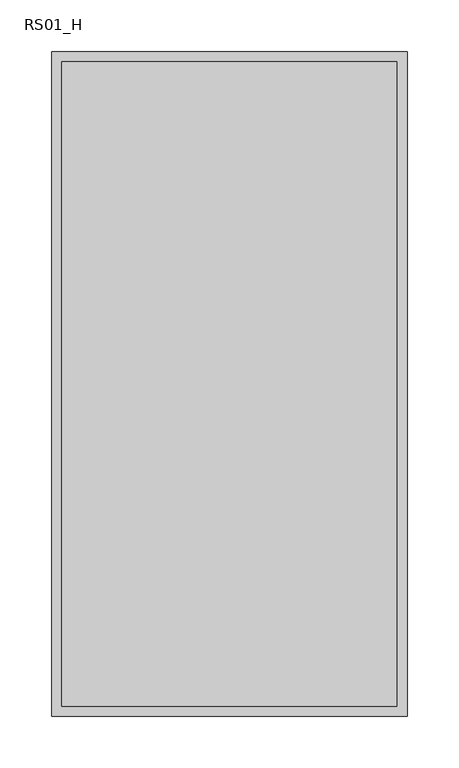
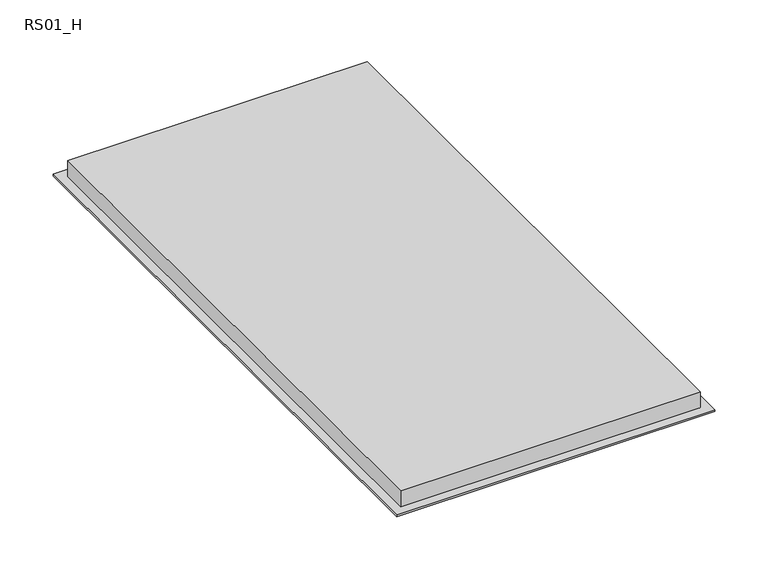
"""IFC4 building model written with IfcOpenShell, lengths in millimetres: air terminal geometry, ZYR_03.06.04.01 Reixa Sostre Sobrepressio : RS01_H."""

import ifcopenshell
import ifcopenshell.guid

model = None  # the IFC model being written
_history = None  # IfcOwnerHistory: only IFC2X3 demands one
_inside = {}  # id of a spatial element -> (the spatial element, [elements in it])
_under = {}  # id of a project, library or spatial element -> (it, [spatial elements below it])
_declared = {}  # id of a project -> (the project, [libraries it declares])
_typed = {}  # id of a type object -> (the type object, [elements of that type])
_made_of = {}  # id of a material, layer set ... -> (it, [elements and type objects made of it])


def new_model(schema):
    """Start an empty IFC model of exactly this schema.

    Asked for "IFC4X3", IfcOpenShell would pick the latest addendum, in which some entities
    have other attributes; the version numbers below select the first issue.
    IFC2X3 requires an IfcOwnerHistory on every rooted entity: one is made here for all.
    """
    global model, _history
    if schema == "IFC4X3":
        model = ifcopenshell.file(schema_version=(4, 3, 0, 0))
    else:
        model = ifcopenshell.file(schema=schema)
    _inside.clear()
    _under.clear()
    _declared.clear()
    _typed.clear()
    _made_of.clear()
    _history = None
    if model.schema == "IFC2X3":
        org = make("IfcOrganization", Name="unknown")
        user = make(
            "IfcPersonAndOrganization",
            ThePerson=make("IfcPerson", FamilyName="unknown"),
            TheOrganization=org,
        )
        app = make(
            "IfcApplication",
            ApplicationDeveloper=org,
            Version="unknown",
            ApplicationFullName="unknown",
            ApplicationIdentifier="unknown",
        )
        _history = make(
            "IfcOwnerHistory",
            OwningUser=user,
            OwningApplication=app,
            ChangeAction="ADDED",
            CreationDate=0,
        )
    return model


def make(cls, **values):
    """One entity of the class cls with the attributes given. An attribute that is None is left unset."""
    return model.create_entity(
        cls, **{name: value for name, value in values.items() if value is not None}
    )


def rooted(cls, **values):
    """An entity with a GlobalId (a new one), such as an element, a storey or a relation."""
    return make(cls, GlobalId=ifcopenshell.guid.new(), OwnerHistory=_history, **values)


def si_unit(unit_type, name, prefix=None):
    """IfcSIUnit, for example si_unit("LENGTHUNIT", "METRE", prefix="MILLI")."""
    return make("IfcSIUnit", UnitType=unit_type, Prefix=prefix, Name=name)


def assignment(units):
    """IfcUnitAssignment: the units of a project."""
    return None if units is None else make("IfcUnitAssignment", Units=units)


def point(xyz):
    """IfcCartesianPoint."""
    return None if xyz is None else make("IfcCartesianPoint", Coordinates=xyz)


def direction(xyz):
    """IfcDirection."""
    return None if xyz is None else make("IfcDirection", DirectionRatios=xyz)


def frame(location, z_axis=None, x_axis=None):
    """IfcAxis2Placement3D, a coordinate frame: its origin and axes. An axis left out is left unset."""
    return make(
        "IfcAxis2Placement3D",
        Location=point(location),
        Axis=direction(z_axis),
        RefDirection=direction(x_axis),
    )


def origin():
    """The frame at (0, 0, 0) with its axes left unset."""
    return frame((0.0, 0.0, 0.0))


def origin_with_axes():
    """The frame at (0, 0, 0) with the z axis (0, 0, 1) and the x axis (1, 0, 0) written out."""
    return frame((0.0, 0.0, 0.0), z_axis=(0.0, 0.0, 1.0), x_axis=(1.0, 0.0, 0.0))


def place(relative_to, where):
    """IfcLocalPlacement: puts the frame where relative to a parent placement (None: the world)."""
    return make(
        "IfcLocalPlacement", PlacementRelTo=relative_to, RelativePlacement=where
    )


def context(
    kind, dimensions, precision=None, world=None, true_north=None, identifier=None
):
    """IfcGeometricRepresentationContext, for example the 3D "Model" context."""
    return make(
        "IfcGeometricRepresentationContext",
        ContextIdentifier=identifier,
        ContextType=kind,
        CoordinateSpaceDimension=dimensions,
        Precision=precision,
        WorldCoordinateSystem=world,
        TrueNorth=true_north,
    )


def project(units=None, contexts=None):
    """IfcProject with its units and contexts."""
    return rooted(
        "IfcProject",
        Name="project",
        RepresentationContexts=contexts,
        UnitsInContext=assignment(units),
    )


def spatial(cls, under=None, at=None, **own):
    """A site, building, storey or space (cls), placed at a placement, below another one or the project."""
    s = rooted(cls, ObjectPlacement=at, **own)
    if under is not None:
        _under.setdefault(under.id(), (under, []))[1].append(s)
    return s


def polyline(points):
    """IfcPolyline through the points."""
    return make("IfcPolyline", Points=[point(p) for p in points])


def outline(outer, holes=None, kind="AREA"):
    """IfcArbitraryClosedProfileDef: a profile drawn as a closed curve; with holes, ...WithVoids."""
    if holes is None:
        return make("IfcArbitraryClosedProfileDef", ProfileType=kind, OuterCurve=outer)
    return make(
        "IfcArbitraryProfileDefWithVoids",
        ProfileType=kind,
        OuterCurve=outer,
        InnerCurves=holes,
    )


def extrude(swept, where, along, depth):
    """IfcExtrudedAreaSolid: the profile swept, set in the frame where, extruded along a direction by depth."""
    return make(
        "IfcExtrudedAreaSolid",
        SweptArea=swept,
        Position=where,
        ExtrudedDirection=direction(along),
        Depth=depth,
    )


def shape(context_of_items, identifier, shape_type, items):
    """IfcShapeRepresentation: the items that make up one representation, for example the "Body"."""
    return make(
        "IfcShapeRepresentation",
        ContextOfItems=context_of_items,
        RepresentationIdentifier=identifier,
        RepresentationType=shape_type,
        Items=items,
    )


def source(mapping_origin, context_of_items, identifier, shape_type, items):
    """IfcRepresentationMap: a shape defined once, which mapped items show again and again."""
    return make(
        "IfcRepresentationMap",
        MappingOrigin=mapping_origin,
        MappedRepresentation=shape(context_of_items, identifier, shape_type, items),
    )


def transform(
    local_origin,
    x_axis=None,
    y_axis=None,
    z_axis=None,
    scale=None,
    scale2=None,
    scale3=None,
    uniform=True,
):
    """IfcCartesianTransformationOperator3D, or its non-uniform kind. x_axis, y_axis, z_axis: its Axis1, 2, 3."""
    if uniform:
        return make(
            "IfcCartesianTransformationOperator3D",
            Axis1=direction(x_axis),
            Axis2=direction(y_axis),
            LocalOrigin=point(local_origin),
            Scale=scale,
            Axis3=direction(z_axis),
        )
    return make(
        "IfcCartesianTransformationOperator3DnonUniform",
        Axis1=direction(x_axis),
        Axis2=direction(y_axis),
        LocalOrigin=point(local_origin),
        Scale=scale,
        Axis3=direction(z_axis),
        Scale2=scale2,
        Scale3=scale3,
    )


def mapped(mapping_source, mapping_target):
    """IfcMappedItem: shows the shape of a source again, moved by a transform."""
    return make(
        "IfcMappedItem", MappingSource=mapping_source, MappingTarget=mapping_target
    )


def made_of(thing, what):
    """Note that an element or type object is made of a material, layer set ...; save() writes the relation."""
    if what is not None:
        _made_of.setdefault(what.id(), (what, []))[1].append(thing)
    return thing


def element(
    cls,
    number,
    at=None,
    inside=None,
    cuts=None,
    type_object=None,
    material=None,
    context=None,
    identifier="Body",
    shape_type=None,
    held_by="IfcProductDefinitionShape",
    body=None,
    shapes=None,
    **own,
):
    """One element of the class cls, such as IfcWall. Its Tag is "e" and its number.

    at: its placement. inside: the storey or other place that contains it. cuts: it is an
    opening in that element (IfcRelVoidsElement). A single representation is given by context,
    identifier, shape_type and body (its items); several are given by shapes. held_by: the class
    of the entity that holds the representations. save() writes the other relations.
    """
    e = rooted(cls, Tag="e%d" % number, ObjectPlacement=at, **own)
    if body is not None:
        shapes = [shape(context, identifier, shape_type, body)]
    if shapes is not None:
        e.Representation = make(held_by, Representations=shapes)
    if inside is not None:
        _inside.setdefault(inside.id(), (inside, []))[1].append(e)
    if cuts is not None:
        rooted(
            "IfcRelVoidsElement", RelatingBuildingElement=cuts, RelatedOpeningElement=e
        )
    if type_object is not None:
        _typed.setdefault(type_object.id(), (type_object, []))[1].append(e)
    return made_of(e, material)


def aggregate(whole, parts):
    """IfcRelAggregates: a whole, such as a stair, and the parts it consists of."""
    return rooted("IfcRelAggregates", RelatingObject=whole, RelatedObjects=parts)


def save(model, path):
    """Write the relations noted so far, then the file.

    IfcRelAggregates (storeys below a building ...), IfcRelContainedInSpatialStructure (elements
    in a storey), IfcRelDefinesByType, IfcRelAssociatesMaterial and IfcRelDeclares: one each for
    every whole, place, type object, material and project.
    """
    for whole, parts in _under.values():
        aggregate(whole, parts)
    for where, things in _inside.values():
        rooted(
            "IfcRelContainedInSpatialStructure",
            RelatedElements=things,
            RelatingStructure=where,
        )
    for kind, things in _typed.values():
        rooted("IfcRelDefinesByType", RelatedObjects=things, RelatingType=kind)
    for what, things in _made_of.values():
        rooted("IfcRelAssociatesMaterial", RelatedObjects=things, RelatingMaterial=what)
    for by, libraries in _declared.values():
        rooted("IfcRelDeclares", RelatingContext=by, RelatedDefinitions=libraries)
    model.write(path)


def rs01_h_b503e907(model_context):
    return source(origin(), model_context, "Body", "SweptSolid", [
        extrude(outline(polyline([(162.5, 312.5), (162.5, -312.5), (-162.5, -312.5), (-162.5, 312.5), (162.5, 312.5)])), origin_with_axes(), (0.0, 0.0, 1.0), 20.0),
        extrude(outline(polyline([(172.5, 322.5), (172.5, -322.5), (-172.5, -322.5), (-172.5, 322.5), (172.5, 322.5)]), holes=[polyline([(162.5, 312.5), (-162.5, 312.5), (-162.5, -312.5), (162.5, -312.5), (162.5, 312.5)])]), origin_with_axes(), (0.0, 0.0, 1.0), 2.0),
    ])


if __name__ == "__main__":
    model = new_model("IFC4")
    model_context = context("Model", 3, world=origin())
    ifc_project = project(units=[si_unit("LENGTHUNIT", "METRE", prefix="MILLI")], contexts=[model_context])
    site = spatial("IfcSite", under=ifc_project)
    building = spatial("IfcBuilding", under=site)
    placement = place(None, origin())
    rs01_h_shape = rs01_h_b503e907(model_context)
    element("IfcAirTerminal", 1, ObjectType="ZYR_03.06.04.01 Reixa Sostre Sobrepressio : RS01_H", at=placement, inside=building, context=model_context, shape_type="MappedRepresentation", body=[
        mapped(rs01_h_shape, transform((0.0, 0.0, 0.0), x_axis=(1.0, 0.0, 0.0), y_axis=(0.0, 1.0, 0.0), z_axis=(0.0, 0.0, 1.0))),
    ])
    save(model, "model.ifc")
